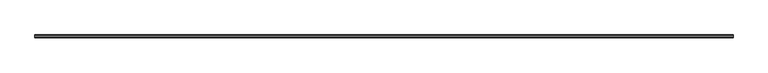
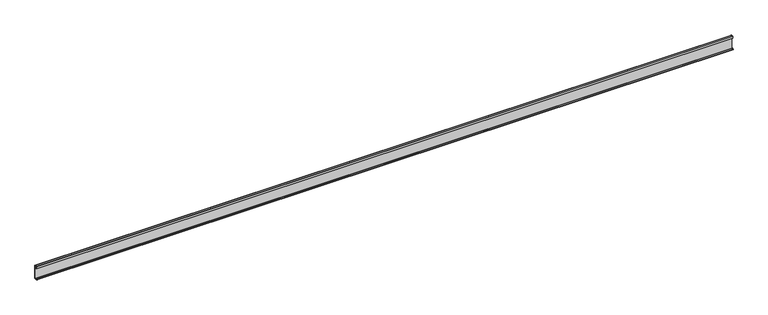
"""IFC4 building model written with IfcOpenShell, lengths in millimetres: proxy geometry, Weiku - Montante - Capa de folha 02.3.02.406 : Weiku - Montante - Capa de folha 02.3.02.406."""

import ifcopenshell
import ifcopenshell.guid

model = None  # the IFC model being written
_history = None  # IfcOwnerHistory: only IFC2X3 demands one
_inside = {}  # id of a spatial element -> (the spatial element, [elements in it])
_under = {}  # id of a project, library or spatial element -> (it, [spatial elements below it])
_declared = {}  # id of a project -> (the project, [libraries it declares])
_typed = {}  # id of a type object -> (the type object, [elements of that type])
_made_of = {}  # id of a material, layer set ... -> (it, [elements and type objects made of it])


def new_model(schema):
    """Start an empty IFC model of exactly this schema.

    Asked for "IFC4X3", IfcOpenShell would pick the latest addendum, in which some entities
    have other attributes; the version numbers below select the first issue.
    IFC2X3 requires an IfcOwnerHistory on every rooted entity: one is made here for all.
    """
    global model, _history
    if schema == "IFC4X3":
        model = ifcopenshell.file(schema_version=(4, 3, 0, 0))
    else:
        model = ifcopenshell.file(schema=schema)
    _inside.clear()
    _under.clear()
    _declared.clear()
    _typed.clear()
    _made_of.clear()
    _history = None
    if model.schema == "IFC2X3":
        org = make("IfcOrganization", Name="unknown")
        user = make(
            "IfcPersonAndOrganization",
            ThePerson=make("IfcPerson", FamilyName="unknown"),
            TheOrganization=org,
        )
        app = make(
            "IfcApplication",
            ApplicationDeveloper=org,
            Version="unknown",
            ApplicationFullName="unknown",
            ApplicationIdentifier="unknown",
        )
        _history = make(
            "IfcOwnerHistory",
            OwningUser=user,
            OwningApplication=app,
            ChangeAction="ADDED",
            CreationDate=0,
        )
    return model


def make(cls, **values):
    """One entity of the class cls with the attributes given. An attribute that is None is left unset."""
    return model.create_entity(
        cls, **{name: value for name, value in values.items() if value is not None}
    )


def rooted(cls, **values):
    """An entity with a GlobalId (a new one), such as an element, a storey or a relation."""
    return make(cls, GlobalId=ifcopenshell.guid.new(), OwnerHistory=_history, **values)


def si_unit(unit_type, name, prefix=None):
    """IfcSIUnit, for example si_unit("LENGTHUNIT", "METRE", prefix="MILLI")."""
    return make("IfcSIUnit", UnitType=unit_type, Prefix=prefix, Name=name)


def assignment(units):
    """IfcUnitAssignment: the units of a project."""
    return None if units is None else make("IfcUnitAssignment", Units=units)


def point(xyz):
    """IfcCartesianPoint."""
    return None if xyz is None else make("IfcCartesianPoint", Coordinates=xyz)


def direction(xyz):
    """IfcDirection."""
    return None if xyz is None else make("IfcDirection", DirectionRatios=xyz)


def frame(location, z_axis=None, x_axis=None):
    """IfcAxis2Placement3D, a coordinate frame: its origin and axes. An axis left out is left unset."""
    return make(
        "IfcAxis2Placement3D",
        Location=point(location),
        Axis=direction(z_axis),
        RefDirection=direction(x_axis),
    )


def frame_2d(location, x_axis=None):
    """IfcAxis2Placement2D, a coordinate frame in the plane: its origin and x axis."""
    return make(
        "IfcAxis2Placement2D", Location=point(location), RefDirection=direction(x_axis)
    )


def origin():
    """The frame at (0, 0, 0) with its axes left unset."""
    return frame((0.0, 0.0, 0.0))


def place(relative_to, where):
    """IfcLocalPlacement: puts the frame where relative to a parent placement (None: the world)."""
    return make(
        "IfcLocalPlacement", PlacementRelTo=relative_to, RelativePlacement=where
    )


def context(
    kind, dimensions, precision=None, world=None, true_north=None, identifier=None
):
    """IfcGeometricRepresentationContext, for example the 3D "Model" context."""
    return make(
        "IfcGeometricRepresentationContext",
        ContextIdentifier=identifier,
        ContextType=kind,
        CoordinateSpaceDimension=dimensions,
        Precision=precision,
        WorldCoordinateSystem=world,
        TrueNorth=true_north,
    )


def project(units=None, contexts=None):
    """IfcProject with its units and contexts."""
    return rooted(
        "IfcProject",
        Name="project",
        RepresentationContexts=contexts,
        UnitsInContext=assignment(units),
    )


def spatial(cls, under=None, at=None, **own):
    """A site, building, storey or space (cls), placed at a placement, below another one or the project."""
    s = rooted(cls, ObjectPlacement=at, **own)
    if under is not None:
        _under.setdefault(under.id(), (under, []))[1].append(s)
    return s


def polyline(points):
    """IfcPolyline through the points."""
    return make("IfcPolyline", Points=[point(p) for p in points])


def circle_curve(where, radius):
    """IfcCircle in the frame where."""
    return make("IfcCircle", Position=where, Radius=radius)


def trimmed(basis, trim1, trim2, sense, master):
    """IfcTrimmedCurve: the piece of a basis curve between two trims."""
    return make(
        "IfcTrimmedCurve",
        BasisCurve=basis,
        Trim1=trim1,
        Trim2=trim2,
        SenseAgreement=sense,
        MasterRepresentation=master,
    )


def segment(curve, same_sense, transition):
    """IfcCompositeCurveSegment."""
    return make(
        "IfcCompositeCurveSegment",
        Transition=transition,
        SameSense=same_sense,
        ParentCurve=curve,
    )


def composite_curve(segments, self_intersect=None):
    """IfcCompositeCurve: segments joined end to end."""
    return make("IfcCompositeCurve", Segments=segments, SelfIntersect=self_intersect)


def outline(outer, holes=None, kind="AREA"):
    """IfcArbitraryClosedProfileDef: a profile drawn as a closed curve; with holes, ...WithVoids."""
    if holes is None:
        return make("IfcArbitraryClosedProfileDef", ProfileType=kind, OuterCurve=outer)
    return make(
        "IfcArbitraryProfileDefWithVoids",
        ProfileType=kind,
        OuterCurve=outer,
        InnerCurves=holes,
    )


def extrude(swept, where, along, depth):
    """IfcExtrudedAreaSolid: the profile swept, set in the frame where, extruded along a direction by depth."""
    return make(
        "IfcExtrudedAreaSolid",
        SweptArea=swept,
        Position=where,
        ExtrudedDirection=direction(along),
        Depth=depth,
    )


def shape(context_of_items, identifier, shape_type, items):
    """IfcShapeRepresentation: the items that make up one representation, for example the "Body"."""
    return make(
        "IfcShapeRepresentation",
        ContextOfItems=context_of_items,
        RepresentationIdentifier=identifier,
        RepresentationType=shape_type,
        Items=items,
    )


def source(mapping_origin, context_of_items, identifier, shape_type, items):
    """IfcRepresentationMap: a shape defined once, which mapped items show again and again."""
    return make(
        "IfcRepresentationMap",
        MappingOrigin=mapping_origin,
        MappedRepresentation=shape(context_of_items, identifier, shape_type, items),
    )


def transform(
    local_origin,
    x_axis=None,
    y_axis=None,
    z_axis=None,
    scale=None,
    scale2=None,
    scale3=None,
    uniform=True,
):
    """IfcCartesianTransformationOperator3D, or its non-uniform kind. x_axis, y_axis, z_axis: its Axis1, 2, 3."""
    if uniform:
        return make(
            "IfcCartesianTransformationOperator3D",
            Axis1=direction(x_axis),
            Axis2=direction(y_axis),
            LocalOrigin=point(local_origin),
            Scale=scale,
            Axis3=direction(z_axis),
        )
    return make(
        "IfcCartesianTransformationOperator3DnonUniform",
        Axis1=direction(x_axis),
        Axis2=direction(y_axis),
        LocalOrigin=point(local_origin),
        Scale=scale,
        Axis3=direction(z_axis),
        Scale2=scale2,
        Scale3=scale3,
    )


def mapped(mapping_source, mapping_target):
    """IfcMappedItem: shows the shape of a source again, moved by a transform."""
    return make(
        "IfcMappedItem", MappingSource=mapping_source, MappingTarget=mapping_target
    )


def made_of(thing, what):
    """Note that an element or type object is made of a material, layer set ...; save() writes the relation."""
    if what is not None:
        _made_of.setdefault(what.id(), (what, []))[1].append(thing)
    return thing


def element(
    cls,
    number,
    at=None,
    inside=None,
    cuts=None,
    type_object=None,
    material=None,
    context=None,
    identifier="Body",
    shape_type=None,
    held_by="IfcProductDefinitionShape",
    body=None,
    shapes=None,
    **own,
):
    """One element of the class cls, such as IfcWall. Its Tag is "e" and its number.

    at: its placement. inside: the storey or other place that contains it. cuts: it is an
    opening in that element (IfcRelVoidsElement). A single representation is given by context,
    identifier, shape_type and body (its items); several are given by shapes. held_by: the class
    of the entity that holds the representations. save() writes the other relations.
    """
    e = rooted(cls, Tag="e%d" % number, ObjectPlacement=at, **own)
    if body is not None:
        shapes = [shape(context, identifier, shape_type, body)]
    if shapes is not None:
        e.Representation = make(held_by, Representations=shapes)
    if inside is not None:
        _inside.setdefault(inside.id(), (inside, []))[1].append(e)
    if cuts is not None:
        rooted(
            "IfcRelVoidsElement", RelatingBuildingElement=cuts, RelatedOpeningElement=e
        )
    if type_object is not None:
        _typed.setdefault(type_object.id(), (type_object, []))[1].append(e)
    return made_of(e, material)


def aggregate(whole, parts):
    """IfcRelAggregates: a whole, such as a stair, and the parts it consists of."""
    return rooted("IfcRelAggregates", RelatingObject=whole, RelatedObjects=parts)


def save(model, path):
    """Write the relations noted so far, then the file.

    IfcRelAggregates (storeys below a building ...), IfcRelContainedInSpatialStructure (elements
    in a storey), IfcRelDefinesByType, IfcRelAssociatesMaterial and IfcRelDeclares: one each for
    every whole, place, type object, material and project.
    """
    for whole, parts in _under.values():
        aggregate(whole, parts)
    for where, things in _inside.values():
        rooted(
            "IfcRelContainedInSpatialStructure",
            RelatedElements=things,
            RelatingStructure=where,
        )
    for kind, things in _typed.values():
        rooted("IfcRelDefinesByType", RelatedObjects=things, RelatingType=kind)
    for what, things in _made_of.values():
        rooted("IfcRelAssociatesMaterial", RelatedObjects=things, RelatingMaterial=what)
    for by, libraries in _declared.values():
        rooted("IfcRelDeclares", RelatingContext=by, RelatedDefinitions=libraries)
    model.write(path)


def generic_models_2855706c(model_context):
    return source(origin(), model_context, "Body", "SweptSolid", [
        extrude(outline(composite_curve([segment(polyline([(-4.6421508, 2.2715508), (-3.3866, 1.016), (-1.6933, 1.016), (-1.6933, 25.684), (-3.3063, 25.684), (-3.3063, 22.3396), (-4.28, 22.3396), (-4.28, 26.2)]), True, "CONTINUOUS"), segment(trimmed(circle_curve(frame_2d((-3.78, 26.2)), 0.5), [point((-4.28, 26.2))], [point((-3.78, 26.7))], False, "CARTESIAN"), True, "CONTINUOUS"), segment(polyline([(-3.78, 26.7), (-0.5, 26.7)]), True, "CONTINUOUS"), segment(trimmed(circle_curve(frame_2d((-0.5, 26.2)), 0.5), [point((-0.5, 26.7))], [point((0.0, 26.2))], False, "CARTESIAN"), True, "CONTINUOUS"), segment(polyline([(0.0, 26.2), (0.0, 0.5)]), True, "CONTINUOUS"), segment(trimmed(circle_curve(frame_2d((-0.5, 0.5)), 0.5), [point((0.0, 0.5))], [point((-0.5, 0.0))], False, "CARTESIAN"), True, "CONTINUOUS"), segment(polyline([(-0.5, 0.0), (-4.7576991, 0.0)]), True, "CONTINUOUS"), segment(trimmed(circle_curve(frame_2d((-4.7576991, 0.7)), 0.7), [point((-4.7576991, 0.0))], [point((-5.3603515, 1.056104))], False, "CARTESIAN"), True, "CONTINUOUS"), segment(polyline([(-5.3603515, 1.056104), (-4.6421508, 2.2715508)]), True, "CONTINUOUS")], self_intersect=False)), frame((-665.75, 0.0, 0.0), z_axis=(1.0, 0.0, 0.0), x_axis=(0.0, 1.0, 0.0)), (0.0, 0.0, 1.0), 1331.5),
    ])


if __name__ == "__main__":
    model = new_model("IFC4")
    model_context = context("Model", 3, world=origin())
    ifc_project = project(units=[si_unit("LENGTHUNIT", "METRE", prefix="MILLI")], contexts=[model_context])
    site = spatial("IfcSite", under=ifc_project)
    building = spatial("IfcBuilding", under=site)
    placement = place(None, origin())
    generic_models_shape = generic_models_2855706c(model_context)
    element("IfcBuildingElementProxy", 1, Name="Weiku - Montante - Capa de folha 02.3.02.406 : Weiku - Montante - Capa de folha 02.3.02.406", ObjectType="Weiku - Montante - Capa de folha 02.3.02.406 : Weiku - Montante - Capa de folha 02.3.02.406", at=placement, inside=building, context=model_context, shape_type="MappedRepresentation", body=[
        mapped(generic_models_shape, transform((0.0, 0.0, 0.0), x_axis=(1.0, 0.0, 0.0), y_axis=(0.0, 1.0, 0.0), z_axis=(0.0, 0.0, 1.0))),
    ])
    save(model, "model.ifc")
